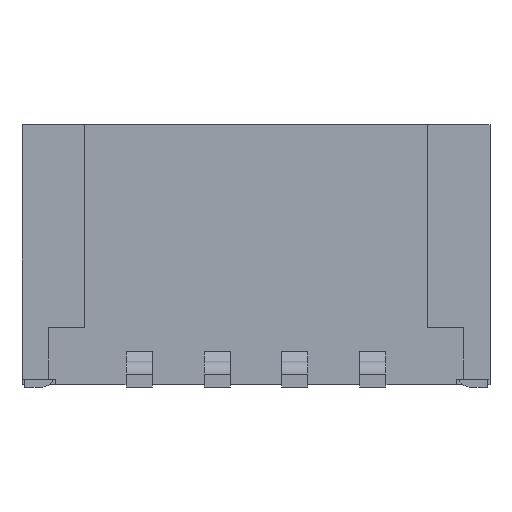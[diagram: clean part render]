
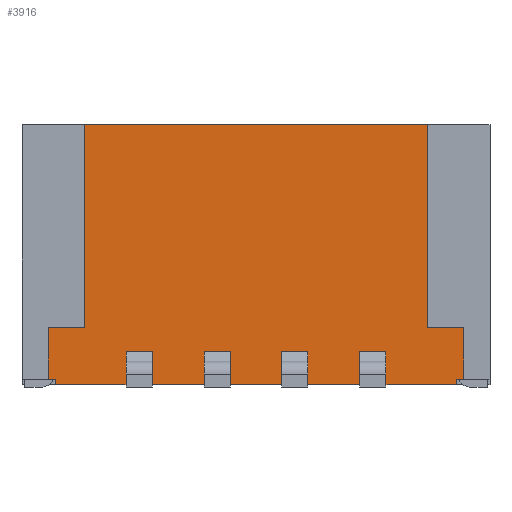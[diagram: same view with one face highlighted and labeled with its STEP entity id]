
A CAD part, top view. The second image highlights one B-rep face of the part: STEP entity #3916.
In plain terms, the highlighted planar face has unit normal (0, 0, 1).
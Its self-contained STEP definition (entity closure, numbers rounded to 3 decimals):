
#111=DIRECTION('',(-1.,0.,0.));
#112=VECTOR('',#111,6.6);
#113=CARTESIAN_POINT('',(10.8,5.,-0.1));
#114=LINE('',#113,#112);
#115=DIRECTION('',(-1.,0.,0.));
#116=VECTOR('',#115,1.);
#117=CARTESIAN_POINT('',(8.,0.,-0.1));
#118=LINE('',#117,#116);
#119=DIRECTION('',(1.,0.,0.));
#120=VECTOR('',#119,1.);
#121=CARTESIAN_POINT('',(5.5,0.,-0.1));
#122=LINE('',#121,#120);
#123=DIRECTION('',(1.,0.,0.));
#124=VECTOR('',#123,1.35);
#125=CARTESIAN_POINT('',(3.65,0.,-0.1));
#126=LINE('',#125,#124);
#127=DIRECTION('',(0.,-1.,0.));
#128=VECTOR('',#127,0.1);
#129=CARTESIAN_POINT('',(3.65,0.1,-0.1));
#130=LINE('',#129,#128);
#131=DIRECTION('',(0.,-1.,0.));
#132=VECTOR('',#131,0.1);
#133=CARTESIAN_POINT('',(11.35,0.1,-0.1));
#134=LINE('',#133,#132);
#135=DIRECTION('',(-1.,0.,0.));
#136=VECTOR('',#135,1.35);
#137=CARTESIAN_POINT('',(11.35,0.,-0.1));
#138=LINE('',#137,#136);
#139=DIRECTION('',(-1.,0.,0.));
#140=VECTOR('',#139,1.);
#141=CARTESIAN_POINT('',(9.5,0.,-0.1));
#142=LINE('',#141,#140);
#1263=DIRECTION('',(-1.,0.,0.));
#1264=VECTOR('',#1263,0.15);
#1265=CARTESIAN_POINT('',(3.65,0.1,-0.1));
#1266=LINE('',#1265,#1264);
#1279=DIRECTION('',(0.,1.,0.));
#1280=VECTOR('',#1279,1.);
#1281=CARTESIAN_POINT('',(3.5,0.1,-0.1));
#1282=LINE('',#1281,#1280);
#1283=DIRECTION('',(1.,0.,0.));
#1284=VECTOR('',#1283,0.7);
#1285=CARTESIAN_POINT('',(3.5,1.1,-0.1));
#1286=LINE('',#1285,#1284);
#1299=DIRECTION('',(0.,1.,0.));
#1300=VECTOR('',#1299,3.9);
#1301=CARTESIAN_POINT('',(4.2,1.1,-0.1));
#1302=LINE('',#1301,#1300);
#1601=DIRECTION('',(1.,0.,0.));
#1602=VECTOR('',#1601,0.15);
#1603=CARTESIAN_POINT('',(11.35,0.1,-0.1));
#1604=LINE('',#1603,#1602);
#1617=DIRECTION('',(0.,1.,0.));
#1618=VECTOR('',#1617,1.);
#1619=CARTESIAN_POINT('',(11.5,0.1,-0.1));
#1620=LINE('',#1619,#1618);
#1625=DIRECTION('',(-1.,0.,0.));
#1626=VECTOR('',#1625,0.7);
#1627=CARTESIAN_POINT('',(11.5,1.1,-0.1));
#1628=LINE('',#1627,#1626);
#1653=DIRECTION('',(0.,1.,0.));
#1654=VECTOR('',#1653,3.9);
#1655=CARTESIAN_POINT('',(10.8,1.1,-0.1));
#1656=LINE('',#1655,#1654);
#1757=DIRECTION('',(0.,-1.,0.));
#1758=VECTOR('',#1757,0.629);
#1759=CARTESIAN_POINT('',(5.,0.629,-0.1));
#1760=LINE('',#1759,#1758);
#1837=DIRECTION('',(-1.,0.,0.));
#1838=VECTOR('',#1837,0.5);
#1839=CARTESIAN_POINT('',(5.5,0.629,-0.1));
#1840=LINE('',#1839,#1838);
#1862=DIRECTION('',(0.,-1.,0.));
#1863=VECTOR('',#1862,0.629);
#1864=CARTESIAN_POINT('',(5.5,0.629,-0.1));
#1865=LINE('',#1864,#1863);
#2005=DIRECTION('',(0.,-1.,0.));
#2006=VECTOR('',#2005,0.629);
#2007=CARTESIAN_POINT('',(6.5,0.629,-0.1));
#2008=LINE('',#2007,#2006);
#2085=DIRECTION('',(-1.,0.,0.));
#2086=VECTOR('',#2085,0.5);
#2087=CARTESIAN_POINT('',(7.,0.629,-0.1));
#2088=LINE('',#2087,#2086);
#2110=DIRECTION('',(0.,-1.,0.));
#2111=VECTOR('',#2110,0.629);
#2112=CARTESIAN_POINT('',(7.,0.629,-0.1));
#2113=LINE('',#2112,#2111);
#2253=DIRECTION('',(0.,-1.,0.));
#2254=VECTOR('',#2253,0.629);
#2255=CARTESIAN_POINT('',(8.,0.629,-0.1));
#2256=LINE('',#2255,#2254);
#2309=DIRECTION('',(1.,0.,0.));
#2310=VECTOR('',#2309,0.5);
#2311=CARTESIAN_POINT('',(8.,0.629,-0.1));
#2312=LINE('',#2311,#2310);
#2350=DIRECTION('',(0.,-1.,0.));
#2351=VECTOR('',#2350,0.629);
#2352=CARTESIAN_POINT('',(8.5,0.629,-0.1));
#2353=LINE('',#2352,#2351);
#2513=DIRECTION('',(0.,-1.,0.));
#2514=VECTOR('',#2513,0.629);
#2515=CARTESIAN_POINT('',(9.5,0.629,-0.1));
#2516=LINE('',#2515,#2514);
#2569=DIRECTION('',(1.,0.,0.));
#2570=VECTOR('',#2569,0.5);
#2571=CARTESIAN_POINT('',(9.5,0.629,-0.1));
#2572=LINE('',#2571,#2570);
#2610=DIRECTION('',(0.,-1.,0.));
#2611=VECTOR('',#2610,0.629);
#2612=CARTESIAN_POINT('',(10.,0.629,-0.1));
#2613=LINE('',#2612,#2611);
#3023=CARTESIAN_POINT('',(11.35,0.,-0.1));
#3025=VERTEX_POINT('',#3023);
#3027=CARTESIAN_POINT('',(11.35,0.1,-0.1));
#3028=VERTEX_POINT('',#3027);
#3037=CARTESIAN_POINT('',(11.5,0.1,-0.1));
#3038=VERTEX_POINT('',#3037);
#3041=CARTESIAN_POINT('',(11.5,1.1,-0.1));
#3042=VERTEX_POINT('',#3041);
#3047=CARTESIAN_POINT('',(10.8,1.1,-0.1));
#3048=VERTEX_POINT('',#3047);
#3055=CARTESIAN_POINT('',(10.8,5.,-0.1));
#3056=VERTEX_POINT('',#3055);
#3124=CARTESIAN_POINT('',(9.5,0.,-0.1));
#3126=VERTEX_POINT('',#3124);
#3131=CARTESIAN_POINT('',(9.5,0.629,-0.1));
#3132=VERTEX_POINT('',#3131);
#3137=CARTESIAN_POINT('',(10.,0.629,-0.1));
#3138=VERTEX_POINT('',#3137);
#3139=CARTESIAN_POINT('',(10.,0.,-0.1));
#3140=VERTEX_POINT('',#3139);
#3144=CARTESIAN_POINT('',(8.,0.,-0.1));
#3146=VERTEX_POINT('',#3144);
#3151=CARTESIAN_POINT('',(8.,0.629,-0.1));
#3152=VERTEX_POINT('',#3151);
#3157=CARTESIAN_POINT('',(8.5,0.629,-0.1));
#3158=VERTEX_POINT('',#3157);
#3159=CARTESIAN_POINT('',(8.5,0.,-0.1));
#3160=VERTEX_POINT('',#3159);
#3357=CARTESIAN_POINT('',(3.65,0.,-0.1));
#3359=VERTEX_POINT('',#3357);
#3361=CARTESIAN_POINT('',(3.65,0.1,-0.1));
#3362=VERTEX_POINT('',#3361);
#3371=CARTESIAN_POINT('',(3.5,0.1,-0.1));
#3372=VERTEX_POINT('',#3371);
#3375=CARTESIAN_POINT('',(3.5,1.1,-0.1));
#3376=VERTEX_POINT('',#3375);
#3381=CARTESIAN_POINT('',(4.2,1.1,-0.1));
#3382=VERTEX_POINT('',#3381);
#3389=CARTESIAN_POINT('',(4.2,5.,-0.1));
#3390=VERTEX_POINT('',#3389);
#3454=CARTESIAN_POINT('',(5.5,0.,-0.1));
#3456=VERTEX_POINT('',#3454);
#3461=CARTESIAN_POINT('',(5.5,0.629,-0.1));
#3462=VERTEX_POINT('',#3461);
#3467=CARTESIAN_POINT('',(5.,0.629,-0.1));
#3468=VERTEX_POINT('',#3467);
#3469=CARTESIAN_POINT('',(5.,0.,-0.1));
#3470=VERTEX_POINT('',#3469);
#3524=CARTESIAN_POINT('',(6.5,0.,-0.1));
#3526=VERTEX_POINT('',#3524);
#3531=CARTESIAN_POINT('',(6.5,0.629,-0.1));
#3532=VERTEX_POINT('',#3531);
#3580=CARTESIAN_POINT('',(7.,0.,-0.1));
#3582=VERTEX_POINT('',#3580);
#3587=CARTESIAN_POINT('',(7.,0.629,-0.1));
#3588=VERTEX_POINT('',#3587);
#3854=CARTESIAN_POINT('',(6.,2.5,-0.1));
#3855=DIRECTION('',(0.,0.,1.));
#3856=DIRECTION('',(1.,0.,0.));
#3857=AXIS2_PLACEMENT_3D('',#3854,#3855,#3856);
#3858=PLANE('',#3857);
#3860=ORIENTED_EDGE('',*,*,#3859,.T.);
#3862=ORIENTED_EDGE('',*,*,#3861,.F.);
#3864=ORIENTED_EDGE('',*,*,#3863,.T.);
#3866=ORIENTED_EDGE('',*,*,#3865,.T.);
#3868=ORIENTED_EDGE('',*,*,#3867,.F.);
#3870=ORIENTED_EDGE('',*,*,#3869,.F.);
#3872=ORIENTED_EDGE('',*,*,#3871,.T.);
#3874=ORIENTED_EDGE('',*,*,#3873,.T.);
#3876=ORIENTED_EDGE('',*,*,#3875,.F.);
#3878=ORIENTED_EDGE('',*,*,#3877,.F.);
#3880=ORIENTED_EDGE('',*,*,#3879,.T.);
#3882=ORIENTED_EDGE('',*,*,#3881,.T.);
#3884=ORIENTED_EDGE('',*,*,#3883,.T.);
#3886=ORIENTED_EDGE('',*,*,#3885,.T.);
#3887=ORIENTED_EDGE('',*,*,#3812,.F.);
#3889=ORIENTED_EDGE('',*,*,#3888,.F.);
#3891=ORIENTED_EDGE('',*,*,#3890,.F.);
#3893=ORIENTED_EDGE('',*,*,#3892,.F.);
#3895=ORIENTED_EDGE('',*,*,#3894,.F.);
#3897=ORIENTED_EDGE('',*,*,#3896,.T.);
#3899=ORIENTED_EDGE('',*,*,#3898,.T.);
#3901=ORIENTED_EDGE('',*,*,#3900,.F.);
#3903=ORIENTED_EDGE('',*,*,#3902,.F.);
#3905=ORIENTED_EDGE('',*,*,#3904,.T.);
#3907=ORIENTED_EDGE('',*,*,#3906,.T.);
#3909=ORIENTED_EDGE('',*,*,#3908,.F.);
#3911=ORIENTED_EDGE('',*,*,#3910,.F.);
#3913=ORIENTED_EDGE('',*,*,#3912,.T.);
#3914=EDGE_LOOP('',(#3860,#3862,#3864,#3866,#3868,#3870,#3872,#3874,#3876,#3878,
#3880,#3882,#3884,#3886,#3887,#3889,#3891,#3893,#3895,#3897,#3899,#3901,#3903,
#3905,#3907,#3909,#3911,#3913));
#3915=FACE_OUTER_BOUND('',#3914,.F.);
#3916=ADVANCED_FACE('',(#3915),#3858,.T.);
#3812=EDGE_CURVE('',#3056,#3390,#114,.T.);
#3859=EDGE_CURVE('',#3146,#3582,#118,.T.);
#3861=EDGE_CURVE('',#3588,#3582,#2113,.T.);
#3863=EDGE_CURVE('',#3588,#3532,#2088,.T.);
#3865=EDGE_CURVE('',#3532,#3526,#2008,.T.);
#3867=EDGE_CURVE('',#3456,#3526,#122,.T.);
#3869=EDGE_CURVE('',#3462,#3456,#1865,.T.);
#3871=EDGE_CURVE('',#3462,#3468,#1840,.T.);
#3873=EDGE_CURVE('',#3468,#3470,#1760,.T.);
#3875=EDGE_CURVE('',#3359,#3470,#126,.T.);
#3877=EDGE_CURVE('',#3362,#3359,#130,.T.);
#3879=EDGE_CURVE('',#3362,#3372,#1266,.T.);
#3881=EDGE_CURVE('',#3372,#3376,#1282,.T.);
#3883=EDGE_CURVE('',#3376,#3382,#1286,.T.);
#3885=EDGE_CURVE('',#3382,#3390,#1302,.T.);
#3888=EDGE_CURVE('',#3048,#3056,#1656,.T.);
#3890=EDGE_CURVE('',#3042,#3048,#1628,.T.);
#3892=EDGE_CURVE('',#3038,#3042,#1620,.T.);
#3894=EDGE_CURVE('',#3028,#3038,#1604,.T.);
#3896=EDGE_CURVE('',#3028,#3025,#134,.T.);
#3898=EDGE_CURVE('',#3025,#3140,#138,.T.);
#3900=EDGE_CURVE('',#3138,#3140,#2613,.T.);
#3902=EDGE_CURVE('',#3132,#3138,#2572,.T.);
#3904=EDGE_CURVE('',#3132,#3126,#2516,.T.);
#3906=EDGE_CURVE('',#3126,#3160,#142,.T.);
#3908=EDGE_CURVE('',#3158,#3160,#2353,.T.);
#3910=EDGE_CURVE('',#3152,#3158,#2312,.T.);
#3912=EDGE_CURVE('',#3152,#3146,#2256,.T.);
